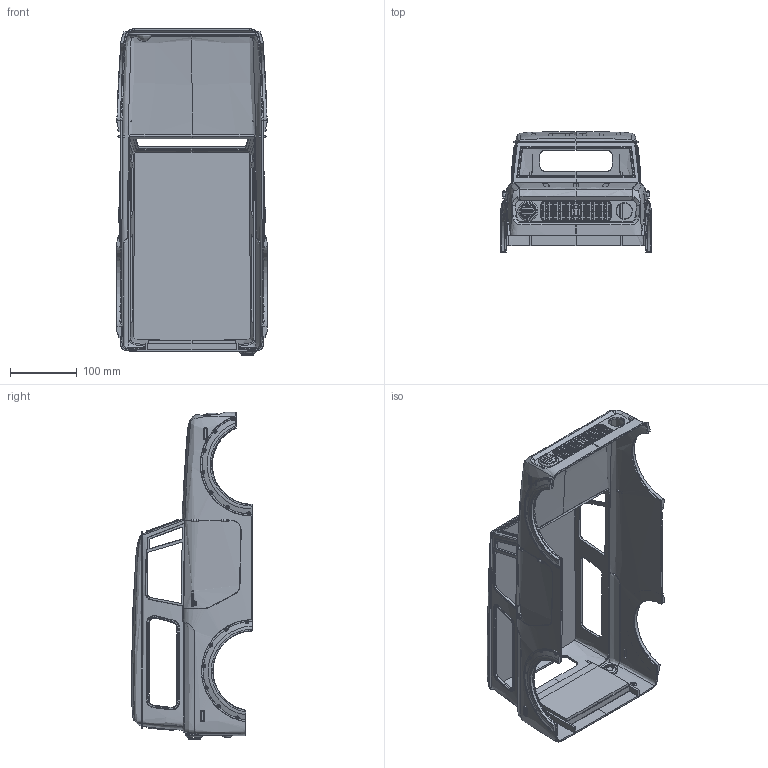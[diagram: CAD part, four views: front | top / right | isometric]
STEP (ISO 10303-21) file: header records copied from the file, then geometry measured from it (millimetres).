
FILE_DESCRIPTION(/* description */ (''),/* implementation_level */ '2;1');
FILE_NAME(/* name */ '/Users/alexbogusky/Desktop/SCOUT AND PARTS v20.step',/* time_stamp */ '2018-12-30T18:50:56-10:00',/* author */ ('alex@bogusky.me'),/* organization */ (''),/* preprocessor_version */ 'ST-DEVELOPER v17.2',/* originating_system */ 'Autodesk Translation Framework v7.6.0.251',/* authorisation */ '');
FILE_SCHEMA (('AUTOMOTIVE_DESIGN { 1 0 10303 214 3 1 1 }'));
Products named in the file (2): SCOUT AND PARTS; Component1
Assembly tree (1 placements, depth 2):
  SCOUT AND PARTS
    Component1
Bounding box: 226.63 x 181.27 x 491.98 mm (x, y, z)
Volume: 845538 mm3; surface area: 627289.3 mm2
Topology: 12 solids, 17 shells, 2660 faces, 7171 edges, 4581 vertices
Faces by surface type: plane 869, bspline 775, cylinder 703, torus 275, sphere 30, cone 8
Full cylindrical faces by diameter (mm): 3 x28, 4.046 x2, 5 x29, 6.788 x1, 8.788 x1, 9.788 x6, 13.577 x3, 15.342 x1, 18.342 x2, 18.701 x1, 19.342 x3, 19.701 x1, 22.7 x1, 22.701 x1, 23.701 x3, 24.595 x3, 30.043 x1
Entity records: 147947 total; most frequent: CARTESIAN_POINT 87294, ORIENTED_EDGE 14282, DIRECTION 10150, EDGE_CURVE 7141, VERTEX_POINT 4573, AXIS2_PLACEMENT_3D 3913, EDGE_LOOP 2930, B_SPLINE_CURVE_WITH_KNOTS 2775
